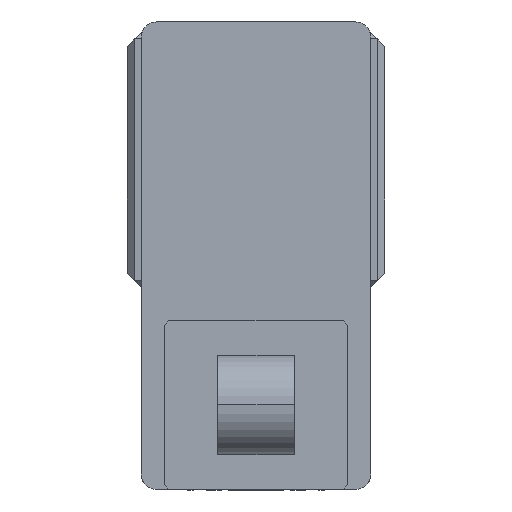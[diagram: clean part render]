
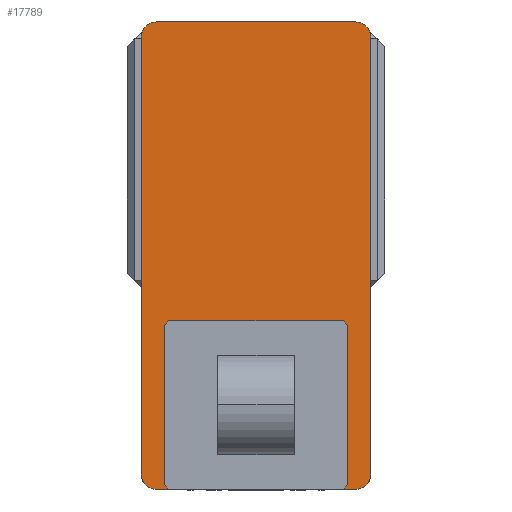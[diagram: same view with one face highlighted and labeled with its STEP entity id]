
A CAD part, left-side view. The second image highlights one B-rep face of the part: STEP entity #17789.
In plain terms, the highlighted planar face has unit normal (-1, 0, 0) as drawn and (0, 0, 1) by its records, which use the part's own axes.
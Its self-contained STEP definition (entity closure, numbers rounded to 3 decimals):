
#324 = VECTOR ( 'NONE', #9374, 1000. ) ;
#454 = CARTESIAN_POINT ( 'NONE',  ( -65., -152.5, 105. ) ) ;
#475 = AXIS2_PLACEMENT_3D ( 'NONE', #10712, #1190, #12325 ) ;
#809 = DIRECTION ( 'NONE',  ( 0., 0., 1. ) ) ;
#820 = ORIENTED_EDGE ( 'NONE', *, *, #9148, .T. ) ;
#892 = ORIENTED_EDGE ( 'NONE', *, *, #6570, .T. ) ;
#1190 = DIRECTION ( 'NONE',  ( 0., 0., 1. ) ) ;
#1304 = EDGE_CURVE ( 'NONE', #4591, #9320, #8789, .T. ) ;
#1309 = DIRECTION ( 'NONE',  ( 0., 0., 1. ) ) ;
#1460 = DIRECTION ( 'NONE',  ( 1., 0., 0. ) ) ;
#1688 = EDGE_CURVE ( 'NONE', #9223, #7561, #12729, .T. ) ;
#2194 = LINE ( 'NONE', #16623, #14319 ) ;
#3329 = FACE_OUTER_BOUND ( 'NONE', #10469, .T. ) ;
#3477 = DIRECTION ( 'NONE',  ( -1., 0., 0. ) ) ;
#3999 = CARTESIAN_POINT ( 'NONE',  ( -65., 152.5, 105. ) ) ;
#4549 = CIRCLE ( 'NONE', #475, 10. ) ;
#4591 = VERTEX_POINT ( 'NONE', #17351 ) ;
#5718 = AXIS2_PLACEMENT_3D ( 'NONE', #10341, #809, #11934 ) ;
#6147 = EDGE_CURVE ( 'NONE', #18126, #9223, #2194, .T. ) ;
#6328 = AXIS2_PLACEMENT_3D ( 'NONE', #20464, #10983, #1460 ) ;
#6570 = EDGE_CURVE ( 'NONE', #18494, #11447, #17815, .T. ) ;
#7561 = VERTEX_POINT ( 'NONE', #454 ) ;
#8132 = CARTESIAN_POINT ( 'NONE',  ( -65., 142.5, 105. ) ) ;
#8789 = LINE ( 'NONE', #13931, #324 ) ;
#9148 = EDGE_CURVE ( 'NONE', #16889, #4591, #14248, .T. ) ;
#9223 = VERTEX_POINT ( 'NONE', #13640 ) ;
#9320 = VERTEX_POINT ( 'NONE', #17031 ) ;
#9374 = DIRECTION ( 'NONE',  ( 0., 1., 0. ) ) ;
#9714 = DIRECTION ( 'NONE',  ( 1., 0., 0. ) ) ;
#9832 = CARTESIAN_POINT ( 'NONE',  ( 65., 152.5, 105. ) ) ;
#10168 = CARTESIAN_POINT ( 'NONE',  ( 65., -152.5, 105. ) ) ;
#10341 = CARTESIAN_POINT ( 'NONE',  ( 65., -142.5, 105. ) ) ;
#10370 = EDGE_CURVE ( 'NONE', #11447, #18126, #17202, .T. ) ;
#10469 = EDGE_LOOP ( 'NONE', ( #19749, #820, #14999, #18151, #892, #15810, #19722, #11314 ) ) ;
#10712 = CARTESIAN_POINT ( 'NONE',  ( 65., 142.5, 105. ) ) ;
#10836 = CARTESIAN_POINT ( 'NONE',  ( 0., 0., 105. ) ) ;
#10909 = AXIS2_PLACEMENT_3D ( 'NONE', #8132, #19213, #9714 ) ;
#10983 = DIRECTION ( 'NONE',  ( 0., 0., 1. ) ) ;
#11236 = AXIS2_PLACEMENT_3D ( 'NONE', #10836, #1309, #12428 ) ;
#11314 = ORIENTED_EDGE ( 'NONE', *, *, #1688, .T. ) ;
#11447 = VERTEX_POINT ( 'NONE', #3999 ) ;
#11934 = DIRECTION ( 'NONE',  ( 1., 0., 0. ) ) ;
#11967 = EDGE_CURVE ( 'NONE', #7561, #16889, #12024, .T. ) ;
#12024 = LINE ( 'NONE', #14485, #16211 ) ;
#12325 = DIRECTION ( 'NONE',  ( 1., 0., 0. ) ) ;
#12428 = DIRECTION ( 'NONE',  ( 1., 0., 0. ) ) ;
#12729 = CIRCLE ( 'NONE', #6328, 10. ) ;
#13428 = DIRECTION ( 'NONE',  ( 0., -1., 0. ) ) ;
#13606 = VECTOR ( 'NONE', #3477, 1000. ) ;
#13640 = CARTESIAN_POINT ( 'NONE',  ( -75., -142.5, 105. ) ) ;
#13931 = CARTESIAN_POINT ( 'NONE',  ( 75., 152.5, 105. ) ) ;
#14248 = CIRCLE ( 'NONE', #5718, 10. ) ;
#14319 = VECTOR ( 'NONE', #13428, 1000. ) ;
#14485 = CARTESIAN_POINT ( 'NONE',  ( -75., -152.5, 105. ) ) ;
#14569 = CARTESIAN_POINT ( 'NONE',  ( -75., 152.5, 105. ) ) ;
#14999 = ORIENTED_EDGE ( 'NONE', *, *, #1304, .T. ) ;
#15551 = PLANE ( 'NONE',  #11236 ) ;
#15810 = ORIENTED_EDGE ( 'NONE', *, *, #10370, .T. ) ;
#16091 = DIRECTION ( 'NONE',  ( 1., 0., 0. ) ) ;
#16211 = VECTOR ( 'NONE', #16091, 1000. ) ;
#16623 = CARTESIAN_POINT ( 'NONE',  ( -75., 152.5, 105. ) ) ;
#16889 = VERTEX_POINT ( 'NONE', #10168 ) ;
#17031 = CARTESIAN_POINT ( 'NONE',  ( 75., 142.5, 105. ) ) ;
#17202 = CIRCLE ( 'NONE', #10909, 10. ) ;
#17351 = CARTESIAN_POINT ( 'NONE',  ( 75., -142.5, 105. ) ) ;
#17789 = ADVANCED_FACE ( 'NONE', ( #3329 ), #15551, .T. ) ;
#17815 = LINE ( 'NONE', #14569, #13606 ) ;
#18126 = VERTEX_POINT ( 'NONE', #18556 ) ;
#18151 = ORIENTED_EDGE ( 'NONE', *, *, #18949, .T. ) ;
#18494 = VERTEX_POINT ( 'NONE', #9832 ) ;
#18556 = CARTESIAN_POINT ( 'NONE',  ( -75., 142.5, 105. ) ) ;
#18949 = EDGE_CURVE ( 'NONE', #9320, #18494, #4549, .T. ) ;
#19213 = DIRECTION ( 'NONE',  ( 0., 0., 1. ) ) ;
#19722 = ORIENTED_EDGE ( 'NONE', *, *, #6147, .T. ) ;
#19749 = ORIENTED_EDGE ( 'NONE', *, *, #11967, .T. ) ;
#20464 = CARTESIAN_POINT ( 'NONE',  ( -65., -142.5, 105. ) ) ;
